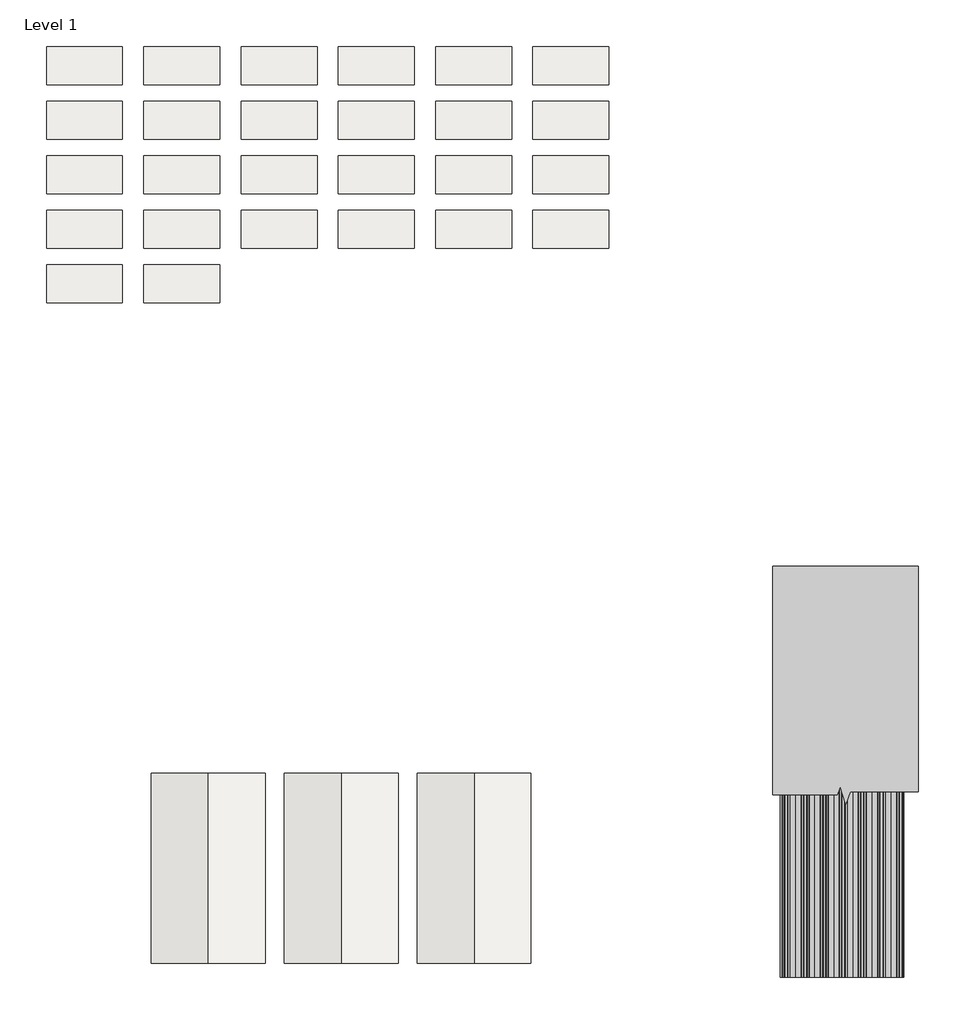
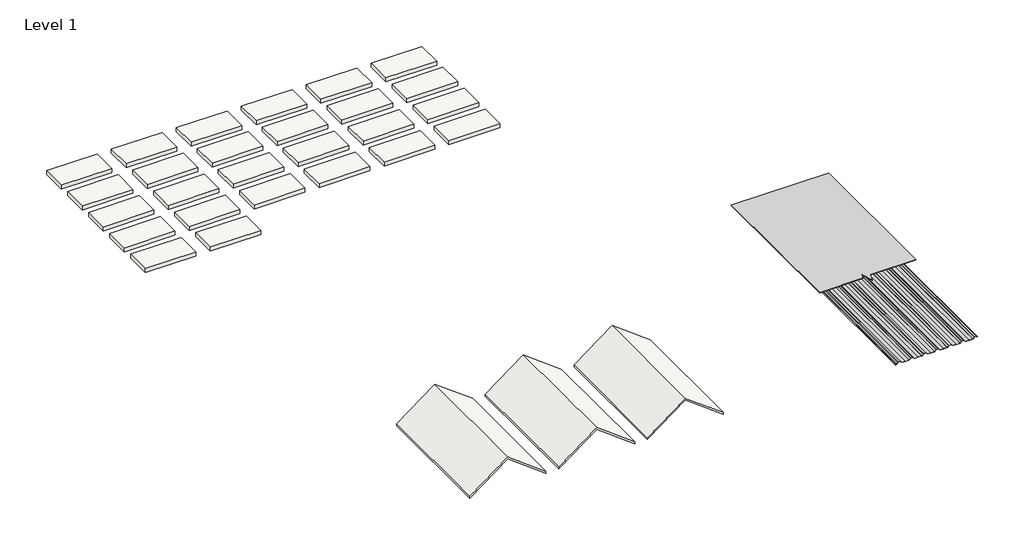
# One storey: 26 slabs, 3 roofs, 2 proxies.
"""IFC4 building model written with IfcOpenShell, lengths in millimetres."""

from ifc_helpers import new_model, si_unit, frame, origin, place, context, project, spatial, polyline, outline, extrude, transform, mapped, element, save
from components import section_mask2_section_mask_7c0c0077, proxy_758662c8

model = new_model("IFC4")

# Units and contexts
model_context = context("Model", 3, world=origin())
ifc_project = project(units=[si_unit("LENGTHUNIT", "METRE", prefix="MILLI")], contexts=[model_context])

# Site, building, storey
site = spatial("IfcSite", under=ifc_project)
building = spatial("IfcBuilding", under=site)
storey = spatial("IfcBuildingStorey", under=building, Name="Level 1", Elevation=0.0)

# Proxies
placement = place(None, origin())
section_mask2_section_mask_shape = section_mask2_section_mask_7c0c0077(model_context)
element("IfcBuildingElementProxy", 1, Name="Section Mask2 : Section Mask", ObjectType="Section Mask2 : Section Mask", at=placement, inside=storey, context=model_context, shape_type="MappedRepresentation", body=[
    mapped(section_mask2_section_mask_shape, transform((-6949.8625238, 863.9776369, -14.2875), x_axis=(1.0, 0.0, 0.0), y_axis=(0.0, 1.0, 0.0), z_axis=(0.0, 0.0, 1.0))),
])
proxy_shape = proxy_758662c8(model_context)
element("IfcBuildingElementProxy", 2, Name="U-Panel_Panel_AEP_Span : 36\" U-Panel Panel - 22ga", ObjectType="U-Panel_Panel_AEP_Span : 36\" U-Panel Panel - 22ga", at=placement, inside=storey, context=model_context, shape_type="MappedRepresentation", body=[
    mapped(proxy_shape, transform((1452.764301, 3328.5614975, 0.0), x_axis=(1.0, 0.0, 0.0), y_axis=(0.0, 1.0, 0.0), z_axis=(0.0, 0.0, 1.0))),
])

# Roofs
element("IfcRoof", 3, ObjectType="36\" U-Panel Roofing - 22ga", at=placement, inside=storey, context=model_context, shape_type="SweptSolid", body=[
    extrude(outline(polyline([(23.8125, -3190.4750229), (366.7125, -3647.6750229), (23.8125, -4104.8750229), (0.0, -4104.8750229), (342.9, -3647.6750229), (0.0, -3190.4750229), (23.8125, -3190.4750229)])), frame((0.0, 140.5584683, 0.0), z_axis=(0.0, 1.0, 0.0), x_axis=(0.0, 0.0, 1.0)), (0.0, 0.0, 1.0), 1524.0),
])
element("IfcRoof", 4, ObjectType="36\" U-Panel Roofing - 24ga", at=placement, inside=storey, context=model_context, shape_type="SweptSolid", body=[
    extrude(outline(polyline([(23.8125, -2123.6750229), (366.7125, -2580.8750229), (23.8125, -3038.0750229), (0.0, -3038.0750229), (342.9, -2580.8750229), (0.0, -2123.6750229), (23.8125, -2123.6750229)])), frame((0.0, 140.5584683, 0.0), z_axis=(0.0, 1.0, 0.0), x_axis=(0.0, 0.0, 1.0)), (0.0, 0.0, 1.0), 1524.0),
])
element("IfcRoof", 5, ObjectType="36\" U-Panel Roofing - 26ga", at=placement, inside=storey, context=model_context, shape_type="SweptSolid", body=[
    extrude(outline(polyline([(23.8125, -1056.8750229), (366.7125, -1514.0750229), (23.8125, -1971.2750229), (0.0, -1971.2750229), (342.9, -1514.0750229), (0.0, -1056.8750229), (23.8125, -1056.8750229)])), frame((0.0, 140.5584683, 0.0), z_axis=(0.0, 1.0, 0.0), x_axis=(0.0, 0.0, 1.0)), (0.0, 0.0, 1.0), 1524.0),
])

# Slabs
element("IfcSlab", 6, ObjectType="AEP Span Color Sample", at=placement, inside=storey, context=model_context, shape_type="SweptSolid", body=[
    extrude(outline(polyline([(-4336.915334, 7196.0746889), (-4946.515334, 7196.0746889), (-4946.515334, 7500.8746889), (-4336.915334, 7500.8746889), (-4336.915334, 7196.0746889)])), frame((0.0, 0.0, -50.8), z_axis=(0.0, 0.0, 1.0), x_axis=(1.0, 0.0, 0.0)), (0.0, 0.0, 1.0), 50.8),
])
element("IfcSlab", 7, ObjectType="AEP Span Color Sample", at=placement, inside=storey, context=model_context, shape_type="SweptSolid", body=[
    extrude(outline(polyline([(-3555.865334, 7196.0746889), (-4165.465334, 7196.0746889), (-4165.465334, 7500.8746889), (-3555.865334, 7500.8746889), (-3555.865334, 7196.0746889)])), frame((0.0, 0.0, -50.8), z_axis=(0.0, 0.0, 1.0), x_axis=(1.0, 0.0, 0.0)), (0.0, 0.0, 1.0), 50.8),
])
element("IfcSlab", 8, ObjectType="AEP Span Color Sample", at=placement, inside=storey, context=model_context, shape_type="SweptSolid", body=[
    extrude(outline(polyline([(-2774.815334, 7196.0746889), (-3384.415334, 7196.0746889), (-3384.415334, 7500.8746889), (-2774.815334, 7500.8746889), (-2774.815334, 7196.0746889)])), frame((0.0, 0.0, -50.8), z_axis=(0.0, 0.0, 1.0), x_axis=(1.0, 0.0, 0.0)), (0.0, 0.0, 1.0), 50.8),
])
element("IfcSlab", 9, ObjectType="AEP Span Color Sample", at=placement, inside=storey, context=model_context, shape_type="SweptSolid", body=[
    extrude(outline(polyline([(-1993.765334, 7196.0746889), (-2603.365334, 7196.0746889), (-2603.365334, 7500.8746889), (-1993.765334, 7500.8746889), (-1993.765334, 7196.0746889)])), frame((0.0, 0.0, -50.8), z_axis=(0.0, 0.0, 1.0), x_axis=(1.0, 0.0, 0.0)), (0.0, 0.0, 1.0), 50.8),
])
element("IfcSlab", 10, ObjectType="AEP Span Color Sample", at=placement, inside=storey, context=model_context, shape_type="SweptSolid", body=[
    extrude(outline(polyline([(-1212.715334, 7196.0746889), (-1822.315334, 7196.0746889), (-1822.315334, 7500.8746889), (-1212.715334, 7500.8746889), (-1212.715334, 7196.0746889)])), frame((0.0, 0.0, -50.8), z_axis=(0.0, 0.0, 1.0), x_axis=(1.0, 0.0, 0.0)), (0.0, 0.0, 1.0), 50.8),
])
element("IfcSlab", 11, ObjectType="AEP Span Color Sample", at=placement, inside=storey, context=model_context, shape_type="SweptSolid", body=[
    extrude(outline(polyline([(-431.665334, 7196.0746889), (-1041.265334, 7196.0746889), (-1041.265334, 7500.8746889), (-431.665334, 7500.8746889), (-431.665334, 7196.0746889)])), frame((0.0, 0.0, -50.8), z_axis=(0.0, 0.0, 1.0), x_axis=(1.0, 0.0, 0.0)), (0.0, 0.0, 1.0), 50.8),
])
element("IfcSlab", 12, ObjectType="AEP Span Color Sample", at=placement, inside=storey, context=model_context, shape_type="SweptSolid", body=[
    extrude(outline(polyline([(-4336.915334, 6757.9246889), (-4946.515334, 6757.9246889), (-4946.515334, 7062.7246889), (-4336.915334, 7062.7246889), (-4336.915334, 6757.9246889)])), frame((0.0, 0.0, -50.8), z_axis=(0.0, 0.0, 1.0), x_axis=(1.0, 0.0, 0.0)), (0.0, 0.0, 1.0), 50.8),
])
element("IfcSlab", 13, ObjectType="AEP Span Color Sample", at=placement, inside=storey, context=model_context, shape_type="SweptSolid", body=[
    extrude(outline(polyline([(-3555.865334, 6757.9246889), (-4165.465334, 6757.9246889), (-4165.465334, 7062.7246889), (-3555.865334, 7062.7246889), (-3555.865334, 6757.9246889)])), frame((0.0, 0.0, -50.8), z_axis=(0.0, 0.0, 1.0), x_axis=(1.0, 0.0, 0.0)), (0.0, 0.0, 1.0), 50.8),
])
element("IfcSlab", 14, ObjectType="AEP Span Color Sample", at=placement, inside=storey, context=model_context, shape_type="SweptSolid", body=[
    extrude(outline(polyline([(-2774.815334, 6757.9246889), (-3384.415334, 6757.9246889), (-3384.415334, 7062.7246889), (-2774.815334, 7062.7246889), (-2774.815334, 6757.9246889)])), frame((0.0, 0.0, -50.8), z_axis=(0.0, 0.0, 1.0), x_axis=(1.0, 0.0, 0.0)), (0.0, 0.0, 1.0), 50.8),
])
element("IfcSlab", 15, ObjectType="AEP Span Color Sample", at=placement, inside=storey, context=model_context, shape_type="SweptSolid", body=[
    extrude(outline(polyline([(-1993.765334, 6757.9246889), (-2603.365334, 6757.9246889), (-2603.365334, 7062.7246889), (-1993.765334, 7062.7246889), (-1993.765334, 6757.9246889)])), frame((0.0, 0.0, -50.8), z_axis=(0.0, 0.0, 1.0), x_axis=(1.0, 0.0, 0.0)), (0.0, 0.0, 1.0), 50.8),
])
element("IfcSlab", 16, ObjectType="AEP Span Color Sample", at=placement, inside=storey, context=model_context, shape_type="SweptSolid", body=[
    extrude(outline(polyline([(-1212.715334, 6757.9246889), (-1822.315334, 6757.9246889), (-1822.315334, 7062.7246889), (-1212.715334, 7062.7246889), (-1212.715334, 6757.9246889)])), frame((0.0, 0.0, -50.8), z_axis=(0.0, 0.0, 1.0), x_axis=(1.0, 0.0, 0.0)), (0.0, 0.0, 1.0), 50.8),
])
element("IfcSlab", 17, ObjectType="AEP Span Color Sample", at=placement, inside=storey, context=model_context, shape_type="SweptSolid", body=[
    extrude(outline(polyline([(-431.665334, 6757.9246889), (-1041.265334, 6757.9246889), (-1041.265334, 7062.7246889), (-431.665334, 7062.7246889), (-431.665334, 6757.9246889)])), frame((0.0, 0.0, -50.8), z_axis=(0.0, 0.0, 1.0), x_axis=(1.0, 0.0, 0.0)), (0.0, 0.0, 1.0), 50.8),
])
element("IfcSlab", 18, ObjectType="AEP Span Color Sample", at=placement, inside=storey, context=model_context, shape_type="SweptSolid", body=[
    extrude(outline(polyline([(-4336.915334, 6319.7746889), (-4946.515334, 6319.7746889), (-4946.515334, 6624.5746889), (-4336.915334, 6624.5746889), (-4336.915334, 6319.7746889)])), frame((0.0, 0.0, -50.8), z_axis=(0.0, 0.0, 1.0), x_axis=(1.0, 0.0, 0.0)), (0.0, 0.0, 1.0), 50.8),
])
element("IfcSlab", 19, ObjectType="AEP Span Color Sample", at=placement, inside=storey, context=model_context, shape_type="SweptSolid", body=[
    extrude(outline(polyline([(-3555.865334, 6319.7746889), (-4165.465334, 6319.7746889), (-4165.465334, 6624.5746889), (-3555.865334, 6624.5746889), (-3555.865334, 6319.7746889)])), frame((0.0, 0.0, -50.8), z_axis=(0.0, 0.0, 1.0), x_axis=(1.0, 0.0, 0.0)), (0.0, 0.0, 1.0), 50.8),
])
element("IfcSlab", 20, ObjectType="AEP Span Color Sample", at=placement, inside=storey, context=model_context, shape_type="SweptSolid", body=[
    extrude(outline(polyline([(-2774.815334, 6319.7746889), (-3384.415334, 6319.7746889), (-3384.415334, 6624.5746889), (-2774.815334, 6624.5746889), (-2774.815334, 6319.7746889)])), frame((0.0, 0.0, -50.8), z_axis=(0.0, 0.0, 1.0), x_axis=(1.0, 0.0, 0.0)), (0.0, 0.0, 1.0), 50.8),
])
element("IfcSlab", 21, ObjectType="AEP Span Color Sample", at=placement, inside=storey, context=model_context, shape_type="SweptSolid", body=[
    extrude(outline(polyline([(-1993.765334, 6319.7746889), (-2603.365334, 6319.7746889), (-2603.365334, 6624.5746889), (-1993.765334, 6624.5746889), (-1993.765334, 6319.7746889)])), frame((0.0, 0.0, -50.8), z_axis=(0.0, 0.0, 1.0), x_axis=(1.0, 0.0, 0.0)), (0.0, 0.0, 1.0), 50.8),
])
element("IfcSlab", 22, ObjectType="AEP Span Color Sample", at=placement, inside=storey, context=model_context, shape_type="SweptSolid", body=[
    extrude(outline(polyline([(-1212.715334, 6319.7746889), (-1822.315334, 6319.7746889), (-1822.315334, 6624.5746889), (-1212.715334, 6624.5746889), (-1212.715334, 6319.7746889)])), frame((0.0, 0.0, -50.8), z_axis=(0.0, 0.0, 1.0), x_axis=(1.0, 0.0, 0.0)), (0.0, 0.0, 1.0), 50.8),
])
element("IfcSlab", 23, ObjectType="AEP Span Color Sample", at=placement, inside=storey, context=model_context, shape_type="SweptSolid", body=[
    extrude(outline(polyline([(-431.665334, 6319.7746889), (-1041.265334, 6319.7746889), (-1041.265334, 6624.5746889), (-431.665334, 6624.5746889), (-431.665334, 6319.7746889)])), frame((0.0, 0.0, -50.8), z_axis=(0.0, 0.0, 1.0), x_axis=(1.0, 0.0, 0.0)), (0.0, 0.0, 1.0), 50.8),
])
element("IfcSlab", 24, ObjectType="AEP Span Color Sample", at=placement, inside=storey, context=model_context, shape_type="SweptSolid", body=[
    extrude(outline(polyline([(-4336.915334, 5881.6246889), (-4946.515334, 5881.6246889), (-4946.515334, 6186.4246889), (-4336.915334, 6186.4246889), (-4336.915334, 5881.6246889)])), frame((0.0, 0.0, -50.8), z_axis=(0.0, 0.0, 1.0), x_axis=(1.0, 0.0, 0.0)), (0.0, 0.0, 1.0), 50.8),
])
element("IfcSlab", 25, ObjectType="AEP Span Color Sample", at=placement, inside=storey, context=model_context, shape_type="SweptSolid", body=[
    extrude(outline(polyline([(-3555.865334, 5881.6246889), (-4165.465334, 5881.6246889), (-4165.465334, 6186.4246889), (-3555.865334, 6186.4246889), (-3555.865334, 5881.6246889)])), frame((0.0, 0.0, -50.8), z_axis=(0.0, 0.0, 1.0), x_axis=(1.0, 0.0, 0.0)), (0.0, 0.0, 1.0), 50.8),
])
element("IfcSlab", 26, ObjectType="AEP Span Color Sample", at=placement, inside=storey, context=model_context, shape_type="SweptSolid", body=[
    extrude(outline(polyline([(-2774.815334, 5881.6246889), (-3384.415334, 5881.6246889), (-3384.415334, 6186.4246889), (-2774.815334, 6186.4246889), (-2774.815334, 5881.6246889)])), frame((0.0, 0.0, -50.8), z_axis=(0.0, 0.0, 1.0), x_axis=(1.0, 0.0, 0.0)), (0.0, 0.0, 1.0), 50.8),
])
element("IfcSlab", 27, ObjectType="AEP Span Color Sample", at=placement, inside=storey, context=model_context, shape_type="SweptSolid", body=[
    extrude(outline(polyline([(-1993.765334, 5881.6246889), (-2603.365334, 5881.6246889), (-2603.365334, 6186.4246889), (-1993.765334, 6186.4246889), (-1993.765334, 5881.6246889)])), frame((0.0, 0.0, -50.8), z_axis=(0.0, 0.0, 1.0), x_axis=(1.0, 0.0, 0.0)), (0.0, 0.0, 1.0), 50.8),
])
element("IfcSlab", 28, ObjectType="AEP Span Color Sample", at=placement, inside=storey, context=model_context, shape_type="SweptSolid", body=[
    extrude(outline(polyline([(-1212.715334, 5881.6246889), (-1822.315334, 5881.6246889), (-1822.315334, 6186.4246889), (-1212.715334, 6186.4246889), (-1212.715334, 5881.6246889)])), frame((0.0, 0.0, -50.8), z_axis=(0.0, 0.0, 1.0), x_axis=(1.0, 0.0, 0.0)), (0.0, 0.0, 1.0), 50.8),
])
element("IfcSlab", 29, ObjectType="AEP Span Color Sample", at=placement, inside=storey, context=model_context, shape_type="SweptSolid", body=[
    extrude(outline(polyline([(-431.665334, 5881.6246889), (-1041.265334, 5881.6246889), (-1041.265334, 6186.4246889), (-431.665334, 6186.4246889), (-431.665334, 5881.6246889)])), frame((0.0, 0.0, -50.8), z_axis=(0.0, 0.0, 1.0), x_axis=(1.0, 0.0, 0.0)), (0.0, 0.0, 1.0), 50.8),
])
element("IfcSlab", 30, ObjectType="AEP Span Color Sample", at=placement, inside=storey, context=model_context, shape_type="SweptSolid", body=[
    extrude(outline(polyline([(-4336.915334, 5443.4746889), (-4946.515334, 5443.4746889), (-4946.515334, 5748.2746889), (-4336.915334, 5748.2746889), (-4336.915334, 5443.4746889)])), frame((0.0, 0.0, -50.8), z_axis=(0.0, 0.0, 1.0), x_axis=(1.0, 0.0, 0.0)), (0.0, 0.0, 1.0), 50.8),
])
element("IfcSlab", 31, ObjectType="AEP Span Color Sample", at=placement, inside=storey, context=model_context, shape_type="SweptSolid", body=[
    extrude(outline(polyline([(-3555.865334, 5443.4746889), (-4165.465334, 5443.4746889), (-4165.465334, 5748.2746889), (-3555.865334, 5748.2746889), (-3555.865334, 5443.4746889)])), frame((0.0, 0.0, -50.8), z_axis=(0.0, 0.0, 1.0), x_axis=(1.0, 0.0, 0.0)), (0.0, 0.0, 1.0), 50.8),
])

save(model, "model.ifc")
